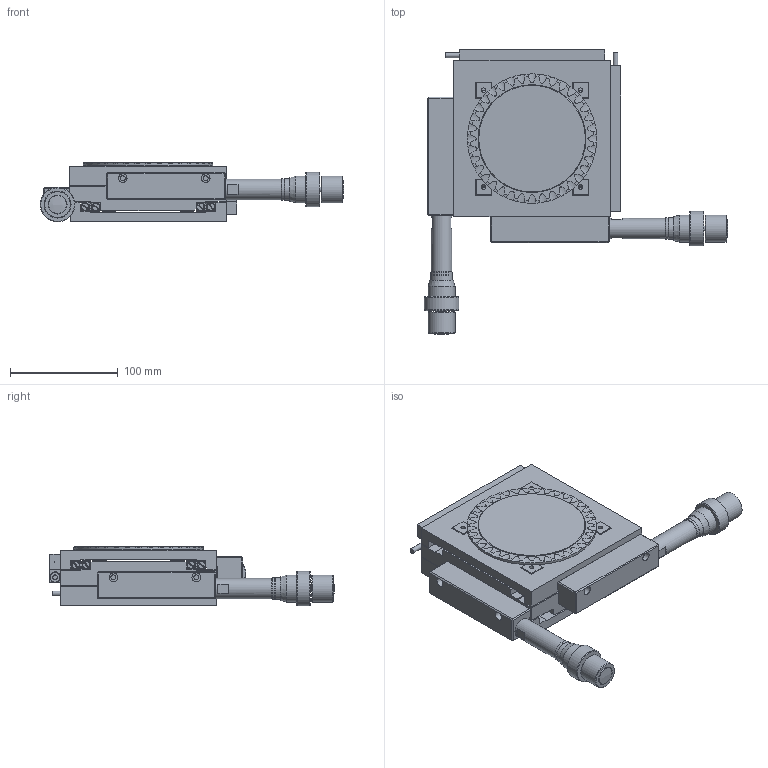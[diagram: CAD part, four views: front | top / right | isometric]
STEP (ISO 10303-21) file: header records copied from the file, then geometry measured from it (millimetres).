
FILE_DESCRIPTION(/* description */ (''),/* implementation_level */ '2;1');
FILE_NAME(/* name */ 'H:\Inventor\Katalog\3D-CAD-Modelle\STP neu\KT5-NHMx-CAD.stp',/* time_stamp */ '2024-01-16T13:49:14+01:00',/* author */ ('KON3'),/* organization */ (''),/* preprocessor_version */ 'ST-DEVELOPER v18',/* originating_system */ 'Autodesk Inventor 2020',/* authorisation */ '');
FILE_SCHEMA (('AUTOMOTIVE_DESIGN { 1 0 10303 214 3 1 1 }'));
Length unit declared in the file: millimetre
Products named in the file (5): KT5-NHMx-CAD; GT5-NxMx_unten; KT5-NHMx_mitte; KT5-NHMx_oben; KT5-Nxxx_Glasplatte
Assembly tree (4 placements, depth 2):
  KT5-NHMx-CAD
    GT5-NxMx_unten
    KT5-NHMx_mitte
    KT5-NHMx_oben
    KT5-Nxxx_Glasplatte
Bounding box: 281.55 x 264.05 x 55.4 mm (x, y, z)
Volume: 1032526.4 mm3; surface area: 302602.4 mm2
Topology: 49 solids, 49 shells, 1359 faces, 3745 edges, 2589 vertices
Faces by surface type: plane 797, cylinder 376, cone 166, torus 18, sphere 2
Full cylindrical faces by diameter (mm): 2.4 x16, 2.459 x54, 3 x8, 3.242 x44, 3.4 x4, 3.5 x16, 4.1 x4, 4.134 x16, 4.5 x6, 5 x2, 5.5 x8, 6 x52, 7.5 x16, 8 x20, 9 x2, 10 x2, 11 x2, 14.379 x2, 16 x2, 19 x2, 20 x4, 25 x4, 32 x2, 97 x1, 100 x2, 101 x3, 104 x1, 120 x1
Entity records: 45748 total; most frequent: CARTESIAN_POINT 8277, DIRECTION 7658, ORIENTED_EDGE 7366, EDGE_CURVE 3683, AXIS2_PLACEMENT_3D 2836, VERTEX_POINT 2589, LINE 1986, VECTOR 1986
